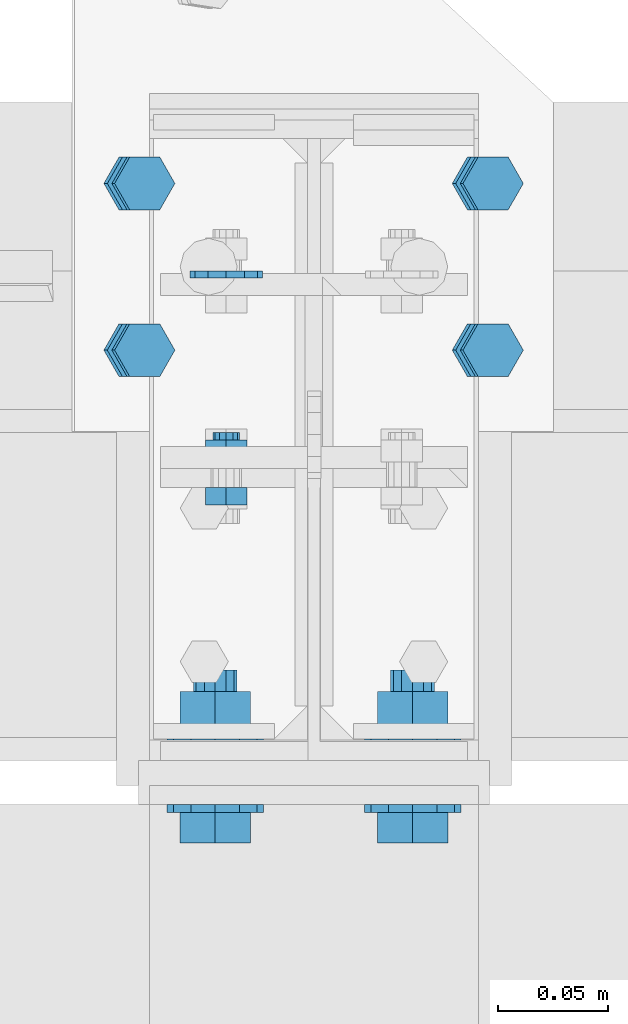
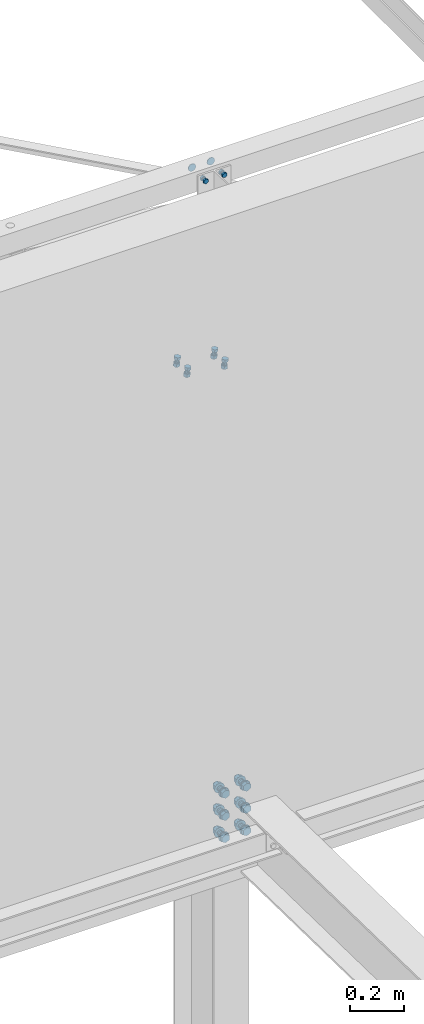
# One storey, part 24 of 3134: 4 mechanical fasteners, 3 elements without a shape of their own.
"""IFC2X3 building model written with IfcOpenShell, lengths in millimetres."""

from ifc_helpers import new_model, si_unit, frame, origin_with_axes, place, context, subcontext, project, spatial, faceted_brep, source, transform, mapped, material, type_object, element, aggregate, save


model = new_model("IFC2X3")

# Units and contexts
model_context = context("Model", 3, precision=1e-05, world=origin_with_axes())
body_context = subcontext(model_context, "Body", "Model", "MODEL_VIEW")
ifc_project = project(units=[si_unit("LENGTHUNIT", "METRE", prefix="MILLI"), si_unit("AREAUNIT", "SQUARE_METRE"), si_unit("VOLUMEUNIT", "CUBIC_METRE"), si_unit("MASSUNIT", "GRAM", prefix="KILO"), si_unit("TIMEUNIT", "SECOND"), si_unit("PLANEANGLEUNIT", "RADIAN"), si_unit("SOLIDANGLEUNIT", "STERADIAN"), si_unit("THERMODYNAMICTEMPERATUREUNIT", "DEGREE_CELSIUS"), si_unit("LUMINOUSINTENSITYUNIT", "LUMEN")], contexts=[model_context])

# Site, building, storey
site_placement = place(None, origin_with_axes())
site = spatial("IfcSite", under=ifc_project, at=site_placement, CompositionType="ELEMENT")
building_placement = place(site_placement, origin_with_axes())
building = spatial("IfcBuilding", under=site, at=building_placement, Name="Undefined", CompositionType="ELEMENT")
storey_placement = place(building_placement, origin_with_axes())
storey = spatial("IfcBuildingStorey", under=building, at=storey_placement, Name="Undefined", CompositionType="ELEMENT", Elevation=0.0)

# Assembly, mechanical fastener
assembly_1_placement = place(storey_placement, origin_with_axes())
assembly_1 = element("IfcElementAssembly", 1, at=assembly_1_placement, inside=storey, AssemblyPlace="NOTDEFINED", PredefinedType="RIGID_FRAME")
ifc_material_1 = material(Name="8.8")
mechanical_fastener_type = type_object("IfcMechanicalFastenerType", Name="Bolt assembly")
shared_shape_1 = source(origin_with_axes(), body_context, "Body", "Brep", [
    faceted_brep([(16.5, -3.0, 0.0), (14.289419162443, -3.0, 8.25000000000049), (8.24999999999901, -3.0, 14.2894191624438), (-1.70995436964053e-12, -3.0, 16.5), (-8.25000000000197, -3.0, 14.2894191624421), (-14.2894191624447, -3.0, 8.24999999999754), (-16.5, -3.0, -3.41990873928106e-12), (-14.2894191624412, -3.0, -8.25000000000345), (-8.24999999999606, -3.0, -14.2894191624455), (5.11154442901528e-12, -3.0, -16.5), (8.25000000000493, -3.0, -14.2894191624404), (14.2894191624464, -3.0, -8.24999999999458), (14.2894191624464, 0.1, -8.24999999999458), (8.25000000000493, 0.1, -14.2894191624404), (5.11154442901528e-12, 0.1, -16.5), (-8.24999999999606, 0.1, -14.2894191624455), (-14.2894191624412, 0.1, -8.25000000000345), (-16.5, 0.1, -3.41990873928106e-12), (-14.2894191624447, 0.1, 8.24999999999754), (-8.25000000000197, 0.1, 14.2894191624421), (-1.70995436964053e-12, 0.1, 16.5), (8.24999999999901, 0.1, 14.2894191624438), (14.289419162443, 0.1, 8.25000000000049), (16.5, 0.1, 0.0)], [[[0, 1, 2, 3, 4, 5, 6, 7, 8, 9, 10, 11]], [[12, 13, 14, 15, 16, 17, 18, 19, 20, 21, 22, 23]], [[0, 23, 22, 1]], [[1, 22, 21, 2]], [[2, 21, 20, 3]], [[3, 20, 19, 4]], [[4, 19, 18, 5]], [[5, 18, 17, 6]], [[6, 17, 16, 7]], [[7, 16, 15, 8]], [[8, 15, 14, 9]], [[9, 14, 13, 10]], [[10, 13, 12, 11]], [[11, 12, 23, 0]]]),
])
mechanical_fastener_1_placement = place(assembly_1_placement, frame((24742.0, -2.0, 5934.99639945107), z_axis=(-1.0, 0.0, 0.0), x_axis=(0.0, 0.0, 1.0)))
mechanical_fastener_1 = element("IfcMechanicalFastener", 2, at=mechanical_fastener_1_placement, type_object=mechanical_fastener_type, material=ifc_material_1, Name="Bolt assembly", NominalDiameter=30.0, NominalLength=3.0, context=body_context, shape_type="MappedRepresentation", body=[
    mapped(shared_shape_1, transform((0.0, 0.0, -40.0))),
    mapped(shared_shape_1, transform((0.0, 0.0, 40.0))),
])

assembly_2_placement = place(storey_placement, origin_with_axes())
assembly_2 = element("IfcElementAssembly", 3, at=assembly_2_placement, inside=storey, Name="PL8", AssemblyPlace="NOTDEFINED", PredefinedType="RIGID_FRAME")
shared_shape_2 = source(origin_with_axes(), body_context, "Body", "Brep", [
    faceted_brep([(13.856406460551, -23.1999997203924, 0.0), (6.92820323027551, -23.1999997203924, 12.0), (-6.92820323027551, -23.1999997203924, 12.0), (-13.856406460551, -23.1999997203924, 1.69692038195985e-15), (-6.92820323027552, -23.1999997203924, -12.0), (6.9282032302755, -23.1999997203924, -12.0), (6.9282032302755, -13.1999997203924, -12.0), (-6.92820323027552, -13.1999997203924, -12.0), (-13.856406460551, -13.1999997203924, 1.69692038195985e-15), (-6.92820323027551, -13.1999997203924, 12.0), (6.92820323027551, -13.1999997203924, 12.0), (13.856406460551, -13.1999997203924, 0.0), (8.0, -13.1999997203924, 0.0), (6.92820323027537, -13.1999997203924, 4.00000000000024), (3.99999999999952, -13.1999997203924, 6.92820323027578), (-8.29068785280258e-13, -13.1999997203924, 8.0), (-4.00000000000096, -13.1999997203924, 6.92820323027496), (-6.9282032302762, -13.1999997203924, 3.99999999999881), (-8.0, -13.1999997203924, -1.65813757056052e-12), (-6.92820323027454, -13.1999997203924, -4.00000000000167), (-3.99999999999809, -13.1999997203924, -6.92820323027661), (2.47832457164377e-12, -13.1999997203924, -8.0), (4.00000000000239, -13.1999997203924, -6.92820323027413), (6.92820323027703, -13.1999997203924, -3.99999999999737), (6.92820323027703, 21.8000002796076, -3.99999999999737), (4.00000000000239, 21.8000002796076, -6.92820323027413), (2.47832457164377e-12, 21.8000002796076, -8.0), (-3.99999999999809, 21.8000002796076, -6.92820323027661), (-6.92820323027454, 21.8000002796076, -4.00000000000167), (-8.0, 21.8000002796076, -1.65813757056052e-12), (-6.9282032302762, 21.8000002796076, 3.99999999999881), (-4.00000000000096, 21.8000002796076, 6.92820323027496), (-8.29068785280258e-13, 21.8000002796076, 8.0), (3.99999999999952, 21.8000002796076, 6.92820323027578), (6.92820323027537, 21.8000002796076, 4.00000000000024), (8.0, 21.8000002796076, 0.0), (13.856406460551, 3.99999999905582, 0.0), (6.92820323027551, 3.99999999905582, 12.0), (-6.92820323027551, 3.99999999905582, 12.0), (-13.856406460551, 3.99999999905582, 1.69692038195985e-15), (-6.92820323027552, 3.99999999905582, -12.0), (6.9282032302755, 3.99999999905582, -12.0), (6.9282032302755, 16.9999999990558, -12.0), (-6.92820323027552, 16.9999999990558, -12.0), (-13.856406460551, 16.9999999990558, 1.69692038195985e-15), (-6.92820323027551, 16.9999999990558, 12.0), (6.92820323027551, 16.9999999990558, 12.0), (13.856406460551, 16.9999999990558, 0.0)], [[[0, 1, 2, 3, 4, 5]], [[6, 7, 8, 9, 10, 11]], [[0, 11, 10, 1]], [[1, 10, 9, 2]], [[2, 9, 8, 3]], [[3, 8, 7, 4]], [[4, 7, 6, 5]], [[5, 6, 11, 0]], [[12, 13, 14, 15, 16, 17, 18, 19, 20, 21, 22, 23]], [[24, 25, 26, 27, 28, 29, 30, 31, 32, 33, 34, 35]], [[12, 35, 34, 13]], [[13, 34, 33, 14]], [[14, 33, 32, 15]], [[15, 32, 31, 16]], [[16, 31, 30, 17]], [[17, 30, 29, 18]], [[18, 29, 28, 19]], [[19, 28, 27, 20]], [[20, 27, 26, 21]], [[21, 26, 25, 22]], [[22, 25, 24, 23]], [[23, 24, 35, 12]], [[36, 37, 38, 39, 40, 41]], [[42, 43, 44, 45, 46, 47]], [[36, 47, 46, 37]], [[37, 46, 45, 38]], [[38, 45, 44, 39]], [[39, 44, 43, 40]], [[40, 43, 42, 41]], [[41, 42, 47, 36]]]),
    faceted_brep([(9.0, -13.0999997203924, 0.0), (7.79422863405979, -13.0999997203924, 4.50000000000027), (4.49999999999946, -13.0999997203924, 7.79422863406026), (-9.3270238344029e-13, -13.0999997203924, 9.0), (-4.50000000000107, -13.0999997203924, 7.79422863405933), (-7.79422863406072, -13.0999997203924, 4.49999999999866), (-9.0, -13.0999997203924, -1.86540476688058e-12), (-7.79422863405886, -13.0999997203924, -4.50000000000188), (-4.49999999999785, -13.0999997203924, -7.79422863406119), (2.78811514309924e-12, -13.0999997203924, -9.0), (4.50000000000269, -13.0999997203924, -7.7942286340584), (7.79422863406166, -13.0999997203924, -4.49999999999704), (7.79422863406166, -3.9, -4.49999999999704), (4.50000000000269, -3.9, -7.7942286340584), (2.78811514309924e-12, -3.9, -9.0), (-4.49999999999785, -3.9, -7.79422863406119), (-7.79422863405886, -3.9, -4.50000000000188), (-9.0, -3.9, -1.86540476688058e-12), (-7.79422863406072, -3.9, 4.49999999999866), (-4.50000000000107, -3.9, 7.79422863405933), (-9.3270238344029e-13, -3.9, 9.0), (4.49999999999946, -3.9, 7.79422863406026), (7.79422863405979, -3.9, 4.50000000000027), (9.0, -3.9, 0.0), (9.0, -4.10000000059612, 0.0), (7.79422863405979, -4.10000000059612, 4.50000000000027), (4.49999999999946, -4.10000000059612, 7.79422863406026), (-9.3270238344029e-13, -4.10000000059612, 9.0), (-4.50000000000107, -4.10000000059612, 7.79422863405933), (-7.79422863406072, -4.10000000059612, 4.49999999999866), (-9.0, -4.10000000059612, -1.86540476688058e-12), (-7.79422863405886, -4.10000000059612, -4.50000000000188), (-4.49999999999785, -4.10000000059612, -7.79422863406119), (2.78811514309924e-12, -4.10000000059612, -9.0), (4.50000000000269, -4.10000000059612, -7.7942286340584), (7.79422863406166, -4.10000000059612, -4.49999999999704), (7.79422863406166, 4.00000375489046, -4.49999999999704), (4.50000000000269, 4.00000375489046, -7.7942286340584), (2.78811514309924e-12, 4.00000375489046, -9.0), (-4.49999999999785, 4.00000375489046, -7.79422863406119), (-7.79422863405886, 4.00000375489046, -4.50000000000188), (-9.0, 4.00000375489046, -1.86540476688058e-12), (-7.79422863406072, 4.00000375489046, 4.49999999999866), (-4.50000000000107, 4.00000375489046, 7.79422863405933), (-9.3270238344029e-13, 4.00000375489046, 9.0), (4.49999999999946, 4.00000375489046, 7.79422863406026), (7.79422863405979, 4.00000375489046, 4.50000000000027), (9.0, 4.00000375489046, 0.0)], [[[0, 1, 2, 3, 4, 5, 6, 7, 8, 9, 10, 11]], [[12, 13, 14, 15, 16, 17, 18, 19, 20, 21, 22, 23]], [[0, 23, 22, 1]], [[1, 22, 21, 2]], [[2, 21, 20, 3]], [[3, 20, 19, 4]], [[4, 19, 18, 5]], [[5, 18, 17, 6]], [[6, 17, 16, 7]], [[7, 16, 15, 8]], [[8, 15, 14, 9]], [[9, 14, 13, 10]], [[10, 13, 12, 11]], [[11, 12, 23, 0]], [[24, 25, 26, 27, 28, 29, 30, 31, 32, 33, 34, 35]], [[36, 37, 38, 39, 40, 41, 42, 43, 44, 45, 46, 47]], [[24, 47, 46, 25]], [[25, 46, 45, 26]], [[26, 45, 44, 27]], [[27, 44, 43, 28]], [[28, 43, 42, 29]], [[29, 42, 41, 30]], [[30, 41, 40, 31]], [[31, 40, 39, 32]], [[32, 39, 38, 33]], [[33, 38, 37, 34]], [[34, 37, 36, 35]], [[35, 36, 47, 24]]]),
])
mechanical_fastener_2_placement = place(assembly_2_placement, frame((24820.8682094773, 0.0, 5030.75597549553), z_axis=(0.0, -1.0, 0.0), x_axis=(-0.992623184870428, 0.0, 0.121240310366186)))
mechanical_fastener_2 = element("IfcMechanicalFastener", 4, at=mechanical_fastener_2_placement, type_object=mechanical_fastener_type, material=ifc_material_1, Name="Bolt assembly", NominalDiameter=16.0, NominalLength=35.0, context=body_context, shape_type="MappedRepresentation", body=[
    mapped(shared_shape_2, transform((0.0, 0.0, -38.0))),
    mapped(shared_shape_2, transform((159.99999999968, -2.71938915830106e-10, -38.0))),
    mapped(shared_shape_2, transform((0.0, 0.0, 38.0))),
    mapped(shared_shape_2, transform((159.99999999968, -2.71938915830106e-10, 38.0))),
])
aggregate(assembly_2, [mechanical_fastener_2])

assembly_3_placement = place(storey_placement, origin_with_axes())
assembly_3 = element("IfcElementAssembly", 5, at=assembly_3_placement, inside=storey, Name="300", AssemblyPlace="NOTDEFINED", PredefinedType="RIGID_FRAME")
ifc_material_2 = material(Name="HR10.9")
shared_shape_3 = source(origin_with_axes(), body_context, "Body", "Brep", [
    faceted_brep([(18.475208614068, -17.599999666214, 0.0), (9.23760430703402, -17.599999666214, 16.0), (-9.23760430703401, -17.599999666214, 16.0), (-18.475208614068, -17.599999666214, 2.2625605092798e-15), (-9.23760430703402, -17.599999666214, -16.0), (9.237604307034, -17.599999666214, -16.0), (9.237604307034, -3.70000004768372, -16.0), (-9.23760430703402, -3.70000004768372, -16.0), (-18.475208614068, -3.70000004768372, 2.2625605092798e-15), (-9.23760430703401, -3.70000004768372, 16.0), (9.23760430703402, -3.70000004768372, 16.0), (18.475208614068, -3.70000004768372, 0.0), (10.0, -3.70000004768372, 0.0), (8.66025403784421, -3.70000004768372, 5.0000000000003), (4.9999999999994, -3.70000004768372, 8.66025403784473), (-1.03633598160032e-12, -3.70000004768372, 10.0), (-5.00000000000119, -3.70000004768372, 8.6602540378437), (-8.66025403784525, -3.70000004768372, 4.99999999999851), (-10.0, -3.70000004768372, -2.07267196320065e-12), (-8.66025403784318, -3.70000004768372, -5.00000000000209), (-4.99999999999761, -3.70000004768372, -8.66025403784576), (3.09790571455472e-12, -3.70000004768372, -10.0), (5.00000000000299, -3.70000004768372, -8.66025403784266), (8.66025403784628, -3.70000004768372, -4.99999999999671), (8.66025403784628, 61.2999999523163, -4.99999999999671), (5.00000000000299, 61.2999999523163, -8.66025403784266), (3.09790571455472e-12, 61.2999999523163, -10.0), (-4.99999999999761, 61.2999999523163, -8.66025403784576), (-8.66025403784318, 61.2999999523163, -5.00000000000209), (-10.0, 61.2999999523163, -2.07267196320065e-12), (-8.66025403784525, 61.2999999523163, 4.99999999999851), (-5.00000000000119, 61.2999999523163, 8.6602540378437), (-1.03633598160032e-12, 61.2999999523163, 10.0), (4.9999999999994, 61.2999999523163, 8.66025403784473), (8.66025403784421, 61.2999999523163, 5.0000000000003), (10.0, 61.2999999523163, 0.0), (22.0, -3.70000004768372, 0.0), (19.0525588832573, -3.70000004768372, 11.0000000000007), (10.9999999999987, -3.70000004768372, 19.0525588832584), (-2.27993915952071e-12, -3.70000004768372, 22.0), (-11.0000000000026, -3.70000004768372, 19.0525588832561), (-19.0525588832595, -3.70000004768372, 10.9999999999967), (-22.0, -3.70000004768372, -4.55987831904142e-12), (-19.052558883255, -3.70000004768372, -11.0000000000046), (-10.9999999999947, -3.70000004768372, -19.0525588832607), (6.81539257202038e-12, -3.70000004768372, -22.0), (11.0000000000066, -3.70000004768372, -19.0525588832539), (19.0525588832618, -3.70000004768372, -10.9999999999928), (19.0525588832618, 0.0, -10.9999999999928), (11.0000000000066, 0.0, -19.0525588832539), (6.81539257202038e-12, 0.0, -22.0), (-10.9999999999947, 0.0, -19.0525588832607), (-19.052558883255, 0.0, -11.0000000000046), (-22.0, 0.0, -4.55987831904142e-12), (-19.0525588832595, 0.0, 10.9999999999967), (-11.0000000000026, 0.0, 19.0525588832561), (-2.27993915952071e-12, 0.0, 22.0), (10.9999999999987, 0.0, 19.0525588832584), (19.0525588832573, 0.0, 11.0000000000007), (22.0, 0.0, 0.0), (22.0, 29.1999998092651, 0.0), (19.0525588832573, 29.1999998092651, 11.0000000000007), (10.9999999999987, 29.1999998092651, 19.0525588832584), (-2.27993915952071e-12, 29.1999998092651, 22.0), (-11.0000000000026, 29.1999998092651, 19.0525588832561), (-19.0525588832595, 29.1999998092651, 10.9999999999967), (-22.0, 29.1999998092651, -4.55987831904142e-12), (-19.052558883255, 29.1999998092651, -11.0000000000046), (-10.9999999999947, 29.1999998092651, -19.0525588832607), (6.81539257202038e-12, 29.1999998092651, -22.0), (11.0000000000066, 29.1999998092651, -19.0525588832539), (19.0525588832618, 29.1999998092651, -10.9999999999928), (19.0525588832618, 32.8999998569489, -10.9999999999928), (11.0000000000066, 32.8999998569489, -19.0525588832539), (6.81539257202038e-12, 32.8999998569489, -22.0), (-10.9999999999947, 32.8999998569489, -19.0525588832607), (-19.052558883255, 32.8999998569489, -11.0000000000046), (-22.0, 32.8999998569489, -4.55987831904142e-12), (-19.0525588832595, 32.8999998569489, 10.9999999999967), (-11.0000000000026, 32.8999998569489, 19.0525588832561), (-2.27993915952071e-12, 32.8999998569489, 22.0), (10.9999999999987, 32.8999998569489, 19.0525588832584), (19.0525588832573, 32.8999998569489, 11.0000000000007), (22.0, 32.8999998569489, 0.0), (18.475208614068, 32.8999998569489, 0.0), (9.23760430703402, 32.8999998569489, 16.0), (-9.23760430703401, 32.8999998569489, 16.0), (-18.475208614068, 32.8999998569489, 2.2625605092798e-15), (-9.23760430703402, 32.8999998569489, -16.0), (9.237604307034, 32.8999998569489, -16.0), (9.237604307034, 51.4499990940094, -16.0), (-9.23760430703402, 51.4499990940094, -16.0), (-18.475208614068, 51.4499990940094, 2.2625605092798e-15), (-9.23760430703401, 51.4499990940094, 16.0), (9.23760430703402, 51.4499990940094, 16.0), (18.475208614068, 51.4499990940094, 0.0)], [[[0, 1, 2, 3, 4, 5]], [[6, 7, 8, 9, 10, 11]], [[0, 11, 10, 1]], [[1, 10, 9, 2]], [[2, 9, 8, 3]], [[3, 8, 7, 4]], [[4, 7, 6, 5]], [[5, 6, 11, 0]], [[12, 13, 14, 15, 16, 17, 18, 19, 20, 21, 22, 23]], [[24, 25, 26, 27, 28, 29, 30, 31, 32, 33, 34, 35]], [[12, 35, 34, 13]], [[13, 34, 33, 14]], [[14, 33, 32, 15]], [[15, 32, 31, 16]], [[16, 31, 30, 17]], [[17, 30, 29, 18]], [[18, 29, 28, 19]], [[19, 28, 27, 20]], [[20, 27, 26, 21]], [[21, 26, 25, 22]], [[22, 25, 24, 23]], [[23, 24, 35, 12]], [[36, 37, 38, 39, 40, 41, 42, 43, 44, 45, 46, 47]], [[48, 49, 50, 51, 52, 53, 54, 55, 56, 57, 58, 59]], [[36, 59, 58, 37]], [[37, 58, 57, 38]], [[38, 57, 56, 39]], [[39, 56, 55, 40]], [[40, 55, 54, 41]], [[41, 54, 53, 42]], [[42, 53, 52, 43]], [[43, 52, 51, 44]], [[44, 51, 50, 45]], [[45, 50, 49, 46]], [[46, 49, 48, 47]], [[47, 48, 59, 36]], [[60, 61, 62, 63, 64, 65, 66, 67, 68, 69, 70, 71]], [[72, 73, 74, 75, 76, 77, 78, 79, 80, 81, 82, 83]], [[60, 83, 82, 61]], [[61, 82, 81, 62]], [[62, 81, 80, 63]], [[63, 80, 79, 64]], [[64, 79, 78, 65]], [[65, 78, 77, 66]], [[66, 77, 76, 67]], [[67, 76, 75, 68]], [[68, 75, 74, 69]], [[69, 74, 73, 70]], [[70, 73, 72, 71]], [[71, 72, 83, 60]], [[84, 85, 86, 87, 88, 89]], [[90, 91, 92, 93, 94, 95]], [[84, 95, 94, 85]], [[85, 94, 93, 86]], [[86, 93, 92, 87]], [[87, 92, 91, 88]], [[88, 91, 90, 89]], [[89, 90, 95, 84]]]),
    faceted_brep([(11.0, 19.9, 0.0), (9.52627944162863, 19.9, 5.50000000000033), (5.49999999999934, 19.9, 9.5262794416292), (-1.13996957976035e-12, 19.9, 11.0), (-5.50000000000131, 19.9, 9.52627944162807), (-9.52627944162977, 19.9, 5.49999999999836), (-11.0, 19.9, -2.27993915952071e-12), (-9.5262794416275, 19.9, -5.5000000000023), (-5.49999999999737, 19.9, -9.52627944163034), (3.40769628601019e-12, 19.9, -11.0), (5.50000000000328, 19.9, -9.52627944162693), (9.52627944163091, 19.9, -5.49999999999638), (9.52627944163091, 29.1999998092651, -5.49999999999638), (5.50000000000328, 29.1999998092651, -9.52627944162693), (3.40769628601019e-12, 29.1999998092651, -11.0), (-5.49999999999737, 29.1999998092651, -9.52627944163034), (-9.5262794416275, 29.1999998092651, -5.5000000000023), (-11.0, 29.1999998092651, -2.27993915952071e-12), (-9.52627944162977, 29.1999998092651, 5.49999999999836), (-5.50000000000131, 29.1999998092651, 9.52627944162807), (-1.13996957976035e-12, 29.1999998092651, 11.0), (5.49999999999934, 29.1999998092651, 9.5262794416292), (9.52627944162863, 29.1999998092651, 5.50000000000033), (11.0, 29.1999998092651, 0.0), (11.0, 0.0999999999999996, 0.0), (9.52627944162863, 0.0999999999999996, 5.50000000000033), (5.49999999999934, 0.0999999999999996, 9.5262794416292), (-1.13996957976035e-12, 0.0999999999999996, 11.0), (-5.50000000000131, 0.0999999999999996, 9.52627944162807), (-9.52627944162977, 0.0999999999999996, 5.49999999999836), (-11.0, 0.0999999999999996, -2.27993915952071e-12), (-9.5262794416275, 0.0999999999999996, -5.5000000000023), (-5.49999999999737, 0.0999999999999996, -9.52627944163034), (3.40769628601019e-12, 0.0999999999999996, -11.0), (5.50000000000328, 0.0999999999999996, -9.52627944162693), (9.52627944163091, 0.0999999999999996, -5.49999999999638), (9.52627944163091, 20.1, -5.49999999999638), (5.50000000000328, 20.1, -9.52627944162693), (3.40769628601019e-12, 20.1, -11.0), (-5.49999999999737, 20.1, -9.52627944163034), (-9.5262794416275, 20.1, -5.5000000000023), (-11.0, 20.1, -2.27993915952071e-12), (-9.52627944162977, 20.1, 5.49999999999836), (-5.50000000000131, 20.1, 9.52627944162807), (-1.13996957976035e-12, 20.1, 11.0), (5.49999999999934, 20.1, 9.5262794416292), (9.52627944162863, 20.1, 5.50000000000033), (11.0, 20.1, 0.0)], [[[0, 1, 2, 3, 4, 5, 6, 7, 8, 9, 10, 11]], [[12, 13, 14, 15, 16, 17, 18, 19, 20, 21, 22, 23]], [[0, 23, 22, 1]], [[1, 22, 21, 2]], [[2, 21, 20, 3]], [[3, 20, 19, 4]], [[4, 19, 18, 5]], [[5, 18, 17, 6]], [[6, 17, 16, 7]], [[7, 16, 15, 8]], [[8, 15, 14, 9]], [[9, 14, 13, 10]], [[10, 13, 12, 11]], [[11, 12, 23, 0]], [[24, 25, 26, 27, 28, 29, 30, 31, 32, 33, 34, 35]], [[36, 37, 38, 39, 40, 41, 42, 43, 44, 45, 46, 47]], [[24, 47, 46, 25]], [[25, 46, 45, 26]], [[26, 45, 44, 27]], [[27, 44, 43, 28]], [[28, 43, 42, 29]], [[29, 42, 41, 30]], [[30, 41, 40, 31]], [[31, 40, 39, 32]], [[32, 39, 38, 33]], [[33, 38, 37, 34]], [[34, 37, 36, 35]], [[35, 36, 47, 24]]]),
])
mechanical_fastener_3_placement = place(assembly_3_placement, frame((24742.0, -245.0, 3270.85230476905), z_axis=(1.0, 0.0, 0.0), x_axis=(0.0, 0.0, -1.0)))
mechanical_fastener_3 = element("IfcMechanicalFastener", 6, at=mechanical_fastener_3_placement, type_object=mechanical_fastener_type, material=ifc_material_2, Name="Bolt assembly", NominalDiameter=20.0, NominalLength=65.0, context=body_context, shape_type="MappedRepresentation", body=[
    mapped(shared_shape_3, transform((0.0, 0.0, -45.0))),
    mapped(shared_shape_3, transform((100.0, 0.0, -45.0))),
    mapped(shared_shape_3, transform((200.0, 0.0, -45.0))),
    mapped(shared_shape_3, transform((0.0, 0.0, 45.0))),
    mapped(shared_shape_3, transform((100.0, 0.0, 45.0))),
    mapped(shared_shape_3, transform((200.0, 0.0, 45.0))),
])
aggregate(assembly_3, [mechanical_fastener_3])

# Mechanical fastener
shared_shape_4 = source(origin_with_axes(), body_context, "Body", "Brep", [
    faceted_brep([(10.9696551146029, -16.5, 0.0), (5.48482755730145, -16.5, 9.5), (-5.48482755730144, -16.5, 9.5), (-10.9696551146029, -16.5, 1.34339530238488e-15), (-5.48482755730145, -16.5, -9.5), (5.48482755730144, -16.5, -9.50000000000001), (5.48482755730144, -8.5, -9.50000000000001), (-5.48482755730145, -8.5, -9.5), (-10.9696551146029, -8.5, 1.34339530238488e-15), (-5.48482755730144, -8.5, 9.5), (5.48482755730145, -8.5, 9.5), (10.9696551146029, -8.5, 0.0), (6.0, -8.5, 0.0), (5.19615242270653, -8.5, 3.00000000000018), (2.99999999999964, -8.5, 5.19615242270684), (-6.21801588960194e-13, -8.5, 6.0), (-3.00000000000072, -8.5, 5.19615242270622), (-5.19615242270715, -8.5, 2.9999999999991), (-6.0, -8.5, -1.24360317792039e-12), (-5.19615242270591, -8.5, -3.00000000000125), (-2.99999999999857, -8.5, -5.19615242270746), (1.85874342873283e-12, -8.5, -6.0), (3.00000000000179, -8.5, -5.1961524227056), (5.19615242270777, -8.5, -2.99999999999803), (5.19615242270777, 16.5, -2.99999999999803), (3.00000000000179, 16.5, -5.1961524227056), (1.85874342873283e-12, 16.5, -6.0), (-2.99999999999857, 16.5, -5.19615242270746), (-5.19615242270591, 16.5, -3.00000000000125), (-6.0, 16.5, -1.24360317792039e-12), (-5.19615242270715, 16.5, 2.9999999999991), (-3.00000000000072, 16.5, 5.19615242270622), (-6.21801588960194e-13, 16.5, 6.0), (2.99999999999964, 16.5, 5.19615242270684), (5.19615242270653, 16.5, 3.00000000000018), (6.0, 16.5, 0.0), (10.9696551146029, 3.00000000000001, 0.0), (5.48482755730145, 3.00000000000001, 9.5), (-5.48482755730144, 3.00000000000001, 9.5), (-10.9696551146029, 3.00000000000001, 1.34339530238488e-15), (-5.48482755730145, 3.00000000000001, -9.5), (5.48482755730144, 3.00000000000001, -9.50000000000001), (5.48482755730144, 13.0, -9.50000000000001), (-5.48482755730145, 13.0, -9.5), (-10.9696551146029, 13.0, 1.34339530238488e-15), (-5.48482755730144, 13.0, 9.5), (5.48482755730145, 13.0, 9.5), (10.9696551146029, 13.0, 0.0)], [[[0, 1, 2, 3, 4, 5]], [[6, 7, 8, 9, 10, 11]], [[0, 11, 10, 1]], [[1, 10, 9, 2]], [[2, 9, 8, 3]], [[3, 8, 7, 4]], [[4, 7, 6, 5]], [[5, 6, 11, 0]], [[12, 13, 14, 15, 16, 17, 18, 19, 20, 21, 22, 23]], [[24, 25, 26, 27, 28, 29, 30, 31, 32, 33, 34, 35]], [[12, 35, 34, 13]], [[13, 34, 33, 14]], [[14, 33, 32, 15]], [[15, 32, 31, 16]], [[16, 31, 30, 17]], [[17, 30, 29, 18]], [[18, 29, 28, 19]], [[19, 28, 27, 20]], [[20, 27, 26, 21]], [[21, 26, 25, 22]], [[22, 25, 24, 23]], [[23, 24, 35, 12]], [[36, 37, 38, 39, 40, 41]], [[42, 43, 44, 45, 46, 47]], [[36, 47, 46, 37]], [[37, 46, 45, 38]], [[38, 45, 44, 39]], [[39, 44, 43, 40]], [[40, 43, 42, 41]], [[41, 42, 47, 36]]]),
    faceted_brep([(7.0, -8.4, 0.0), (6.06217782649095, -8.4, 3.50000000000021), (3.49999999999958, -8.4, 6.06217782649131), (-7.25435187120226e-13, -8.4, 7.0), (-3.50000000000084, -8.4, 6.06217782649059), (-6.06217782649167, -8.4, 3.49999999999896), (-7.0, -8.4, -1.45087037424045e-12), (-6.06217782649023, -8.4, -3.50000000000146), (-3.49999999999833, -8.4, -6.06217782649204), (2.1685340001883e-12, -8.4, -7.0), (3.50000000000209, -8.4, -6.06217782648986), (6.0621778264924, -8.4, -3.4999999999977), (6.0621778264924, 0.0999999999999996, -3.4999999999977), (3.50000000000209, 0.0999999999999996, -6.06217782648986), (2.1685340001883e-12, 0.0999999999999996, -7.0), (-3.49999999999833, 0.0999999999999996, -6.06217782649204), (-6.06217782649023, 0.0999999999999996, -3.50000000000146), (-7.0, 0.0999999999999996, -1.45087037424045e-12), (-6.06217782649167, 0.0999999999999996, 3.49999999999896), (-3.50000000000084, 0.0999999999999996, 6.06217782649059), (-7.25435187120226e-13, 0.0999999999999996, 7.0), (3.49999999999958, 0.0999999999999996, 6.06217782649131), (6.06217782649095, 0.0999999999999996, 3.50000000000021), (7.0, 0.0999999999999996, 0.0), (7.0, -0.1, 0.0), (6.06217782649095, -0.1, 3.50000000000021), (3.49999999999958, -0.1, 6.06217782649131), (-7.25435187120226e-13, -0.1, 7.0), (-3.50000000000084, -0.1, 6.06217782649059), (-6.06217782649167, -0.1, 3.49999999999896), (-7.0, -0.1, -1.45087037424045e-12), (-6.06217782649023, -0.1, -3.50000000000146), (-3.49999999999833, -0.1, -6.06217782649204), (2.1685340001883e-12, -0.1, -7.0), (3.50000000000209, -0.1, -6.06217782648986), (6.0621778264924, -0.1, -3.4999999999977), (6.0621778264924, 3.0, -3.4999999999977), (3.50000000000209, 3.0, -6.06217782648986), (2.1685340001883e-12, 3.0, -7.0), (-3.49999999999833, 3.0, -6.06217782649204), (-6.06217782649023, 3.0, -3.50000000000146), (-7.0, 3.0, -1.45087037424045e-12), (-6.06217782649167, 3.0, 3.49999999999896), (-3.50000000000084, 3.0, 6.06217782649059), (-7.25435187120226e-13, 3.0, 7.0), (3.49999999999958, 3.0, 6.06217782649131), (6.06217782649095, 3.0, 3.50000000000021), (7.0, 3.0, 0.0)], [[[0, 1, 2, 3, 4, 5, 6, 7, 8, 9, 10, 11]], [[12, 13, 14, 15, 16, 17, 18, 19, 20, 21, 22, 23]], [[0, 23, 22, 1]], [[1, 22, 21, 2]], [[2, 21, 20, 3]], [[3, 20, 19, 4]], [[4, 19, 18, 5]], [[5, 18, 17, 6]], [[6, 17, 16, 7]], [[7, 16, 15, 8]], [[8, 15, 14, 9]], [[9, 14, 13, 10]], [[10, 13, 12, 11]], [[11, 12, 23, 0]], [[24, 25, 26, 27, 28, 29, 30, 31, 32, 33, 34, 35]], [[36, 37, 38, 39, 40, 41, 42, 43, 44, 45, 46, 47]], [[24, 47, 46, 25]], [[25, 46, 45, 26]], [[26, 45, 44, 27]], [[27, 44, 43, 28]], [[28, 43, 42, 29]], [[29, 42, 41, 30]], [[30, 41, 40, 31]], [[31, 40, 39, 32]], [[32, 39, 38, 33]], [[33, 38, 37, 34]], [[34, 37, 36, 35]], [[35, 36, 47, 24]]]),
])
mechanical_fastener_4_placement = place(assembly_1_placement, frame((24742.0, -92.0, 5934.99639945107), z_axis=(-1.0, 0.0, 0.0), x_axis=(0.0, 0.0, 1.0)))
mechanical_fastener_4 = element("IfcMechanicalFastener", 7, at=mechanical_fastener_4_placement, type_object=mechanical_fastener_type, material=ifc_material_1, Name="Bolt assembly", NominalDiameter=12.0, NominalLength=25.0, context=body_context, shape_type="MappedRepresentation", body=[
    mapped(shared_shape_4, transform((0.0, 0.0, -40.0))),
    mapped(shared_shape_4, transform((0.0, 0.0, 40.0))),
])

aggregate(assembly_1, [mechanical_fastener_4, mechanical_fastener_1])

save(model, "model.ifc")
